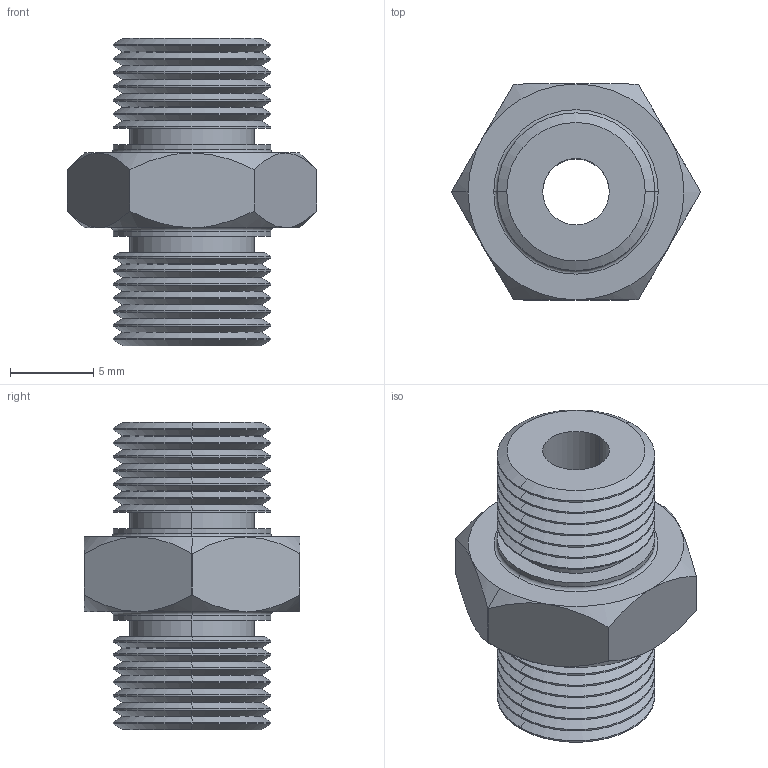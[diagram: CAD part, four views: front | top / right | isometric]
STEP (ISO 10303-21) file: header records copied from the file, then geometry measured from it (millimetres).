
FILE_DESCRIPTION (( 'STEP AP214' ), '1' );
FILE_NAME ('VM-G18M-G18M.STEP', '2023-03-07T08:54:17', ( 'Windows User' ), ( 'P R C' ), 'SwSTEP 2.0', 'SolidWorks 2019', '' );
FILE_SCHEMA (( 'AUTOMOTIVE_DESIGN' ));
Length unit declared in the file: millimetre
Products named in the file (1): VM-G18M-G18M
Bounding box: 15 x 13 x 18.5 mm (x, y, z)
Volume: 1276.6 mm3; surface area: 1372.4 mm2
Topology: 1 solids, 1 shells, 157 faces, 326 edges, 177 vertices
Faces by surface type: cylinder 71, cone 68, plane 14, torus 4
Entity records: 4231 total; most frequent: CARTESIAN_POINT 821, DIRECTION 787, ORIENTED_EDGE 652, AXIS2_PLACEMENT_3D 327, EDGE_CURVE 326, VERTEX_POINT 177, CIRCLE 169, EDGE_LOOP 165
